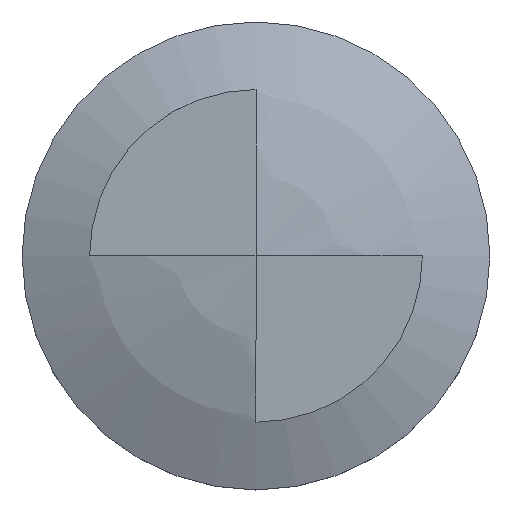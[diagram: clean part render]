
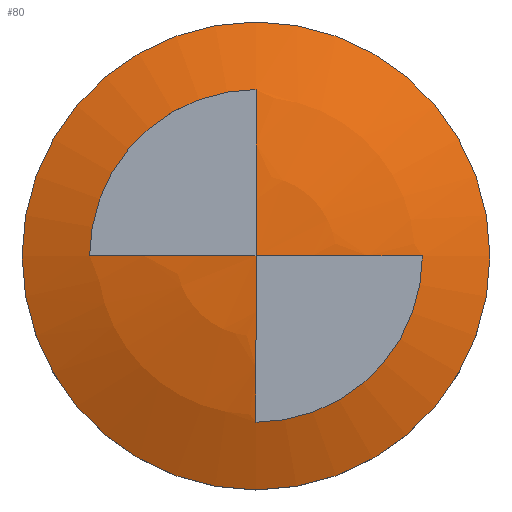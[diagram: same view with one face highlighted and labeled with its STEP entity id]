
A CAD part, top view. The second image highlights one B-rep face of the part: STEP entity #80.
In plain terms, the highlighted spherical face has radius 26.562 mm.
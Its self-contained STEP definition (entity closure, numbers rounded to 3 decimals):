
#80=ADVANCED_FACE('',(#233,#235),#237,.T.);
#233=FACE_BOUND('',#234,.T.);
#234=EDGE_LOOP('',(#327,#328,#329,#330,#331,#332));
#235=FACE_OUTER_BOUND('',#236,.T.);
#236=EDGE_LOOP('',(#333));
#237=SPHERICAL_SURFACE('',#238,26.563);
#238=AXIS2_PLACEMENT_3D('',#239,#240,#241);
#239=CARTESIAN_POINT('',(0.,0.,-21.063));
#240=DIRECTION('',(0.,0.,-1.));
#241=DIRECTION('',(-1.,0.,0.));
#327=ORIENTED_EDGE('',*,*,#379,.T.);
#328=ORIENTED_EDGE('',*,*,#380,.T.);
#329=ORIENTED_EDGE('',*,*,#374,.T.);
#330=ORIENTED_EDGE('',*,*,#381,.T.);
#331=ORIENTED_EDGE('',*,*,#376,.T.);
#332=ORIENTED_EDGE('',*,*,#382,.T.);
#333=ORIENTED_EDGE('',*,*,#383,.F.);
#374=EDGE_CURVE('',#418,#423,#425,.T.);
#376=EDGE_CURVE('',#427,#418,#428,.F.);
#379=EDGE_CURVE('',#432,#433,#434,.F.);
#380=EDGE_CURVE('',#433,#418,#435,.F.);
#381=EDGE_CURVE('',#423,#427,#436,.F.);
#382=EDGE_CURVE('',#418,#432,#437,.T.);
#383=EDGE_CURVE('',#438,#438,#439,.T.);
#418=VERTEX_POINT('',#518);
#423=VERTEX_POINT('',#527);
#425=CIRCLE('',#531,26.563);
#427=VERTEX_POINT('',#538);
#428=CIRCLE('',#539,26.563);
#432=VERTEX_POINT('',#550);
#433=VERTEX_POINT('',#551);
#434=CIRCLE('',#552,8.);
#435=CIRCLE('',#556,26.563);
#436=CIRCLE('',#560,8.);
#437=CIRCLE('',#564,26.563);
#438=VERTEX_POINT('',#568);
#439=CIRCLE('',#569,11.25);
#518=CARTESIAN_POINT('',(0.,0.,5.5));
#527=CARTESIAN_POINT('',(-8.,0.,4.267));
#531=AXIS2_PLACEMENT_3D('',#532,#533,#534);
#532=CARTESIAN_POINT('',(0.,0.,-21.063));
#533=DIRECTION('',(0.,-1.,0.));
#534=DIRECTION('',(0.,0.,1.));
#538=CARTESIAN_POINT('',(0.,8.,4.267));
#539=AXIS2_PLACEMENT_3D('',#540,#541,#542);
#540=CARTESIAN_POINT('',(0.,0.,-21.063));
#541=DIRECTION('',(-1.,0.,0.));
#542=DIRECTION('',(0.,0.,1.));
#550=CARTESIAN_POINT('',(8.,0.,4.267));
#551=CARTESIAN_POINT('',(0.,-8.,4.267));
#552=AXIS2_PLACEMENT_3D('',#553,#554,#555);
#553=CARTESIAN_POINT('',(0.,0.,4.267));
#554=DIRECTION('',(0.,0.,1.));
#555=DIRECTION('',(0.,-1.,0.));
#556=AXIS2_PLACEMENT_3D('',#557,#558,#559);
#557=CARTESIAN_POINT('',(0.,0.,-21.063));
#558=DIRECTION('',(1.,0.,0.));
#559=DIRECTION('',(0.,0.,1.));
#560=AXIS2_PLACEMENT_3D('',#561,#562,#563);
#561=CARTESIAN_POINT('',(0.,0.,4.267));
#562=DIRECTION('',(0.,0.,1.));
#563=DIRECTION('',(0.,1.,0.));
#564=AXIS2_PLACEMENT_3D('',#565,#566,#567);
#565=CARTESIAN_POINT('',(0.,0.,-21.063));
#566=DIRECTION('',(0.,1.,0.));
#567=DIRECTION('',(0.,0.,1.));
#568=CARTESIAN_POINT('',(-11.25,0.,3.));
#569=AXIS2_PLACEMENT_3D('',#570,#571,#572);
#570=CARTESIAN_POINT('',(0.,0.,3.));
#571=DIRECTION('',(0.,0.,-1.));
#572=DIRECTION('',(-1.,0.,0.));
